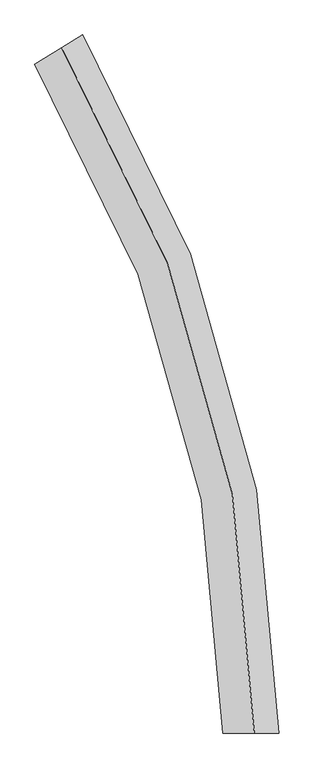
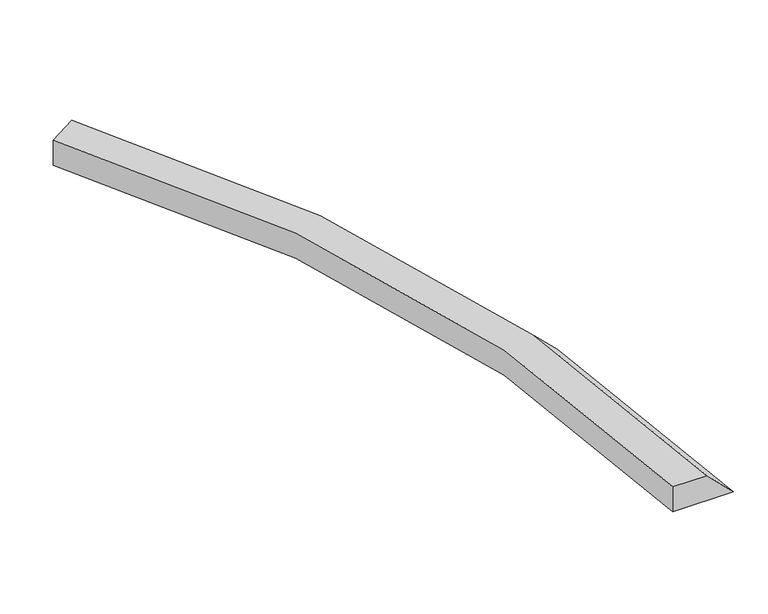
"""IFC4 building model written with IfcOpenShell, lengths in millimetres: proxy geometry, Gousset radier courbe ext ou int : Gousset radier courbe - côté intérieur."""

from ifc_helpers import new_model, si_unit, frame, origin, origin_with_axes, place, context, project, spatial, polyline, circle_curve, source, transform, mapped, element, save
from ifc_brep_helpers import plane_surface, revolved_surface, advanced_brep


def generic_models_5fc66349(model_context):
    return source(origin(), model_context, "Body", "AdvancedBrep", [
        advanced_brep(
        [(18325.0, 0.0, 0.0), (19125.0, 0.0, 0.0), (18775.0, 0.0, 350.0), (18325.0, 0.0, 350.0), (15634.3154742, 9558.9646225, 350.0), (15634.3154742, 9558.9646225, 0.0), (16018.2413658, 9793.7004522, 350.0), (16316.8503925, 9976.2727643, 0.0)],
        [
            (0, 1),
            (1, 2),
            (2, 3),
            (3, 0),
            (3, 4, circle_curve(frame((0.0, 0.0, 350.0), z_axis=(0.0, 0.0, 1.0), x_axis=(1.0, 0.0, 0.0)), 18325.0)),
            (4, 5),
            (5, 0, circle_curve(frame((0.0, 0.0, 0.0), z_axis=(0.0, 0.0, -1.0), x_axis=(1.0, 0.0, 0.0)), 18325.0)),
            (2, 6, circle_curve(frame((0.0, 0.0, 350.0), z_axis=(0.0, 0.0, 1.0), x_axis=(1.0, 0.0, 0.0)), 18775.0)),
            (6, 4),
            (1, 7, circle_curve(origin_with_axes(), 19125.0)),
            (7, 6),
            (5, 7),
        ],
        [
            plane_surface(frame((0.0, 0.0, 1550.0), z_axis=(0.0, -1.0, 0.0), x_axis=(1.0, 0.0, 0.0))),
            revolved_surface(polyline([(18325.0, 0.0, 350.0), (18325.0, 0.0, 0.0)]), (0.0, 0.0, 1550.0), (0.0, 0.0, 1.0)),
            plane_surface(frame((0.0, 0.0, 350.0), z_axis=(0.0, 0.0, 1.0), x_axis=(1.0, 0.0, 0.0))),
            revolved_surface(polyline([(19125.0, 0.0, 0.0), (18775.0, 0.0, 350.0)]), (0.0, 0.0, 1550.0), (0.0, 0.0, 1.0)),
            plane_surface(frame((0.0, 0.0, 0.0), z_axis=(0.0, 0.0, -1.0), x_axis=(1.0, 0.0, 0.0))),
            plane_surface(frame((0.0, 0.0, 350.0), z_axis=(-0.5216351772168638, 0.853168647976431, 0.0), x_axis=(0.0, 0.0, -1.0))),
        ],
        [
            (0, [[1, 2, 3, 4]]),
            (1, [[-4, 5, 6, 7]]),
            (2, [[-3, 8, 9, -5]]),
            (3, [[-2, 10, 11, -8]]),
            (4, [[-1, -7, 12, -10]]),
            (5, [[-6, -9, -11, -12]]),
        ],
    ),
    ])


if __name__ == "__main__":
    model = new_model("IFC4")
    model_context = context("Model", 3, world=origin())
    ifc_project = project(units=[si_unit("LENGTHUNIT", "METRE", prefix="MILLI")], contexts=[model_context])
    site = spatial("IfcSite", under=ifc_project)
    building = spatial("IfcBuilding", under=site)
    placement = place(None, origin())
    generic_models_shape = generic_models_5fc66349(model_context)
    element("IfcBuildingElementProxy", 1, Name="Gousset radier courbe ext ou int : Gousset radier courbe - côté intérieur", ObjectType="Gousset radier courbe ext ou int : Gousset radier courbe - côté intérieur", at=placement, inside=building, context=model_context, shape_type="MappedRepresentation", body=[
        mapped(generic_models_shape, transform((0.0, 0.0, 0.0), x_axis=(1.0, 0.0, 0.0), y_axis=(0.0, 1.0, 0.0), z_axis=(0.0, 0.0, 1.0))),
    ])
    save(model, "model.ifc")
